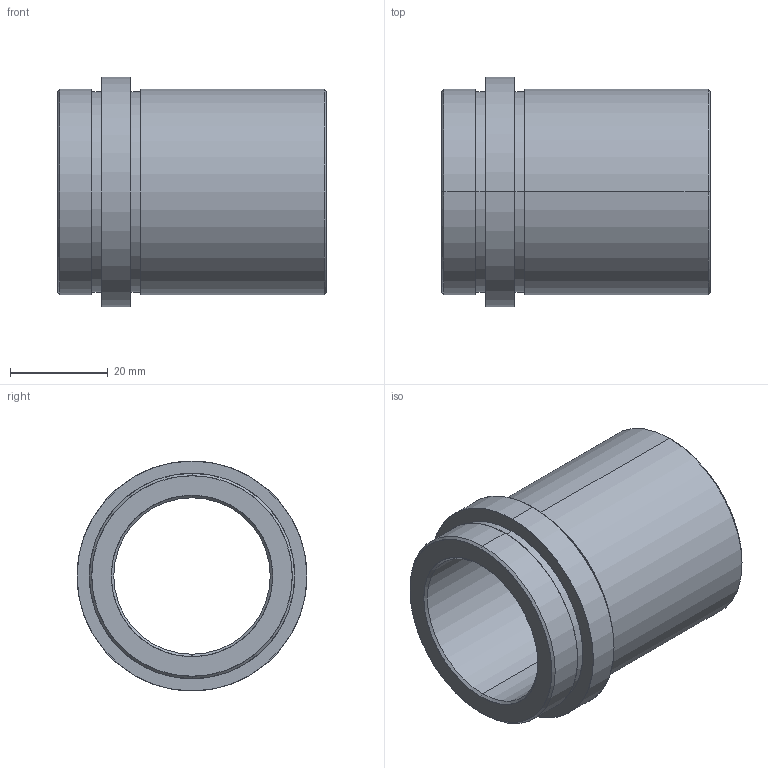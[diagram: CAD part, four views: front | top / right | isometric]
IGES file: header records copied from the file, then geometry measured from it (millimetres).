
Start section: SolidWorks IGES FILE using analytic representation for surfaces
Global section: file name: D:\zzzzz\Delta\D21\32\D21 - 32x46.IGS; native system: SolidWorks 2004 by SolidWorks Corporation; preprocessor: Version 5.3; author: Hkn; date: 080326.193133; units: millimetre
Bounding box: 55 x 47 x 47 mm (x, y, z)
Surface area: 14853.9 mm2 (no closed solid volume)
Topology: 0 solids, 0 shells, 26 faces, 848 edges, 848 vertices
Faces by surface type: revolution 20, bspline 6
